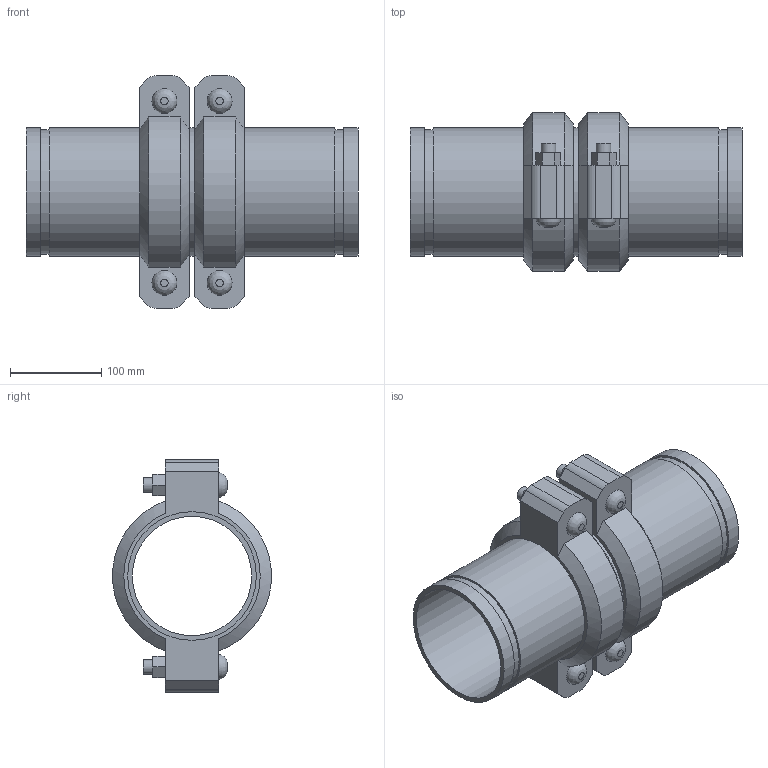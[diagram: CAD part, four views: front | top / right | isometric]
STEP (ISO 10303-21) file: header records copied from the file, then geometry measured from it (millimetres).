
FILE_DESCRIPTION(/* description */ ('VIC EXPANSION JOINT 2 COUPLINGS COMPRESSED STYLE 155 (OGS)','CAx-IF Rec.Pracs.---Representation and Presentation of Product Manufacturing Information (PMI)---4.0---2014-10-13'),/* implementation_level */ '2;1');
FILE_NAME(/* name */ 'C:\Users\kkamble\AppData\Roaming\Autodesk\ApplicationPlugins\Victaulic.Temp\A11\Victaulic_IPS_Expansion Joint_Compressed_2 Couplings_Style 155 (OGS)_5 (125).stp',/* time_stamp */ '2021-06-27T00:23:36+02:00',/* author */ ('kkamble'),/* organization */ ('Victaulic'),/* preprocessor_version */ 'ST-DEVELOPER v17.2',/* originating_system */ 'Autodesk Inventor 2019',/* authorisation */ '');
FILE_SCHEMA (('AP242_MANAGED_MODEL_BASED_3D_ENGINEERING_MIM_LF { 1 0 10303 442 1 1 4 }'));
Length unit declared in the file: inch
Products named in the file (4): 155-05.0; Nipple-05.0; Nipple-05.0_1; 075_2_Coup-05.0
Assembly tree (5 placements, depth 2):
  155-05.0
    Nipple-05.0  x2
    Nipple-05.0_1
    075_2_Coup-05.0  x2
Bounding box: 364.49 x 174.16 x 255.78 mm (x, y, z)
Volume: 2087603.2 mm3; surface area: 537378.2 mm2
Topology: 5 solids, 9 shells, 150 faces, 356 edges, 252 vertices
Faces by surface type: plane 90, cylinder 48, cone 8, bspline 4
Full cylindrical faces by diameter (mm): 15.875 x8, 17.424 x4, 130.988 x3, 134.95 x2, 137.033 x6, 141.3 x13
Entity records: 2762 total; most frequent: CARTESIAN_POINT 489, DIRECTION 453, ORIENTED_EDGE 386, EDGE_CURVE 193, AXIS2_PLACEMENT_3D 180, VERTEX_POINT 138, EDGE_LOOP 107, LINE 93
